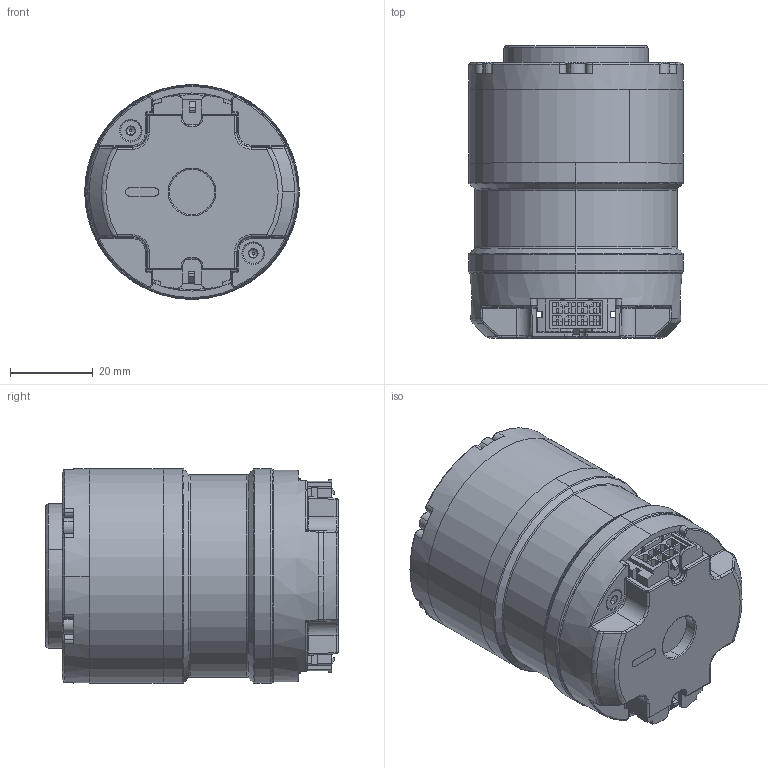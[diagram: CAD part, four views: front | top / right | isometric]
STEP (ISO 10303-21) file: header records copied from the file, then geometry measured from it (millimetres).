
FILE_DESCRIPTION (( 'STEP AP214' ), '1' );
FILE_NAME ('QDD-NE30-36-v2_3.STEP', '2019-11-15T08:39:21', ( '' ), ( '' ), 'SwSTEP 2.0', 'SolidWorks 2018', '' );
FILE_SCHEMA (( 'AUTOMOTIVE_DESIGN' ));
Length unit declared in the file: millimetre
Products named in the file (1): QDD-NE30-36-v2_3
Bounding box: 52 x 70.8 x 52 mm (x, y, z)
Surface area: 44470.7 mm2 (no closed solid volume)
Topology: 0 solids, 19 shells, 1618 faces, 4373 edges, 2734 vertices
Faces by surface type: plane 875, cylinder 385, cone 200, bspline 87, torus 66, sphere 5
Entity records: 68586 total; most frequent: CARTESIAN_POINT 12021, DIRECTION 8338, ORIENTED_EDGE 8204, EDGE_CURVE 4336, VECTOR 2866, LINE 2866, AXIS2_PLACEMENT_3D 2736, VERTEX_POINT 2734
